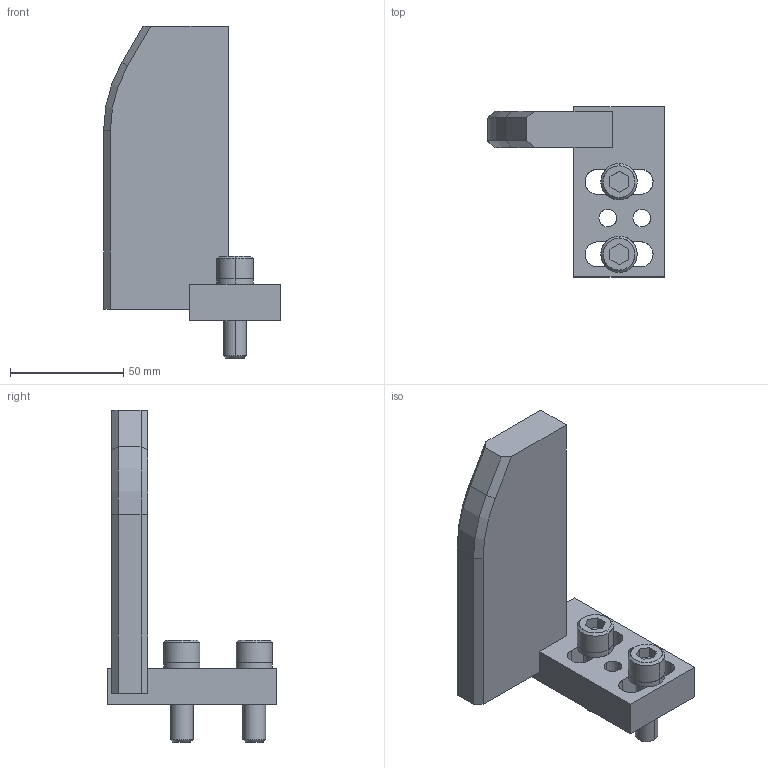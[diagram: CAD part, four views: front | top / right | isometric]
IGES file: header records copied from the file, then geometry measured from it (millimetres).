
Global section: file name: E:\UnigraphicsGraphicData\MISUMI_PRESS-PARTS\IGES\3d_ngwbr-130-30-s55-m10_01595_r00.igs; native system: NX V5.0; preprocessor: UGS NX IGES V5.0; author: MISUMI; date: 20110105.162114; units: millimetre
Bounding box: 78 x 75 x 146.5 mm (x, y, z)
Surface area: 35489.3 mm2 (no closed solid volume)
Topology: 0 solids, 0 shells, 104 faces, 666 edges, 666 vertices
Faces by surface type: bspline 104
